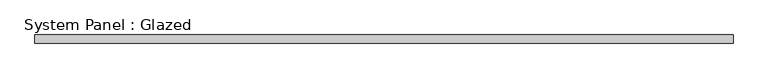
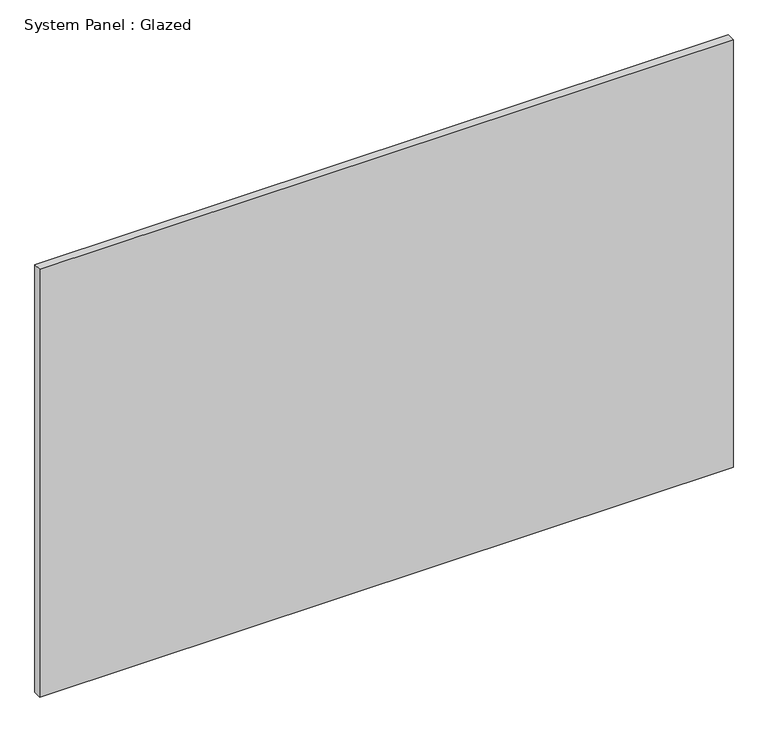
"""IFC4 building model written with IfcOpenShell, lengths in millimetres: plate geometry, System Panel : Glazed."""

import ifcopenshell
import ifcopenshell.guid

model = None  # the IFC model being written
_history = None  # IfcOwnerHistory: only IFC2X3 demands one
_inside = {}  # id of a spatial element -> (the spatial element, [elements in it])
_under = {}  # id of a project, library or spatial element -> (it, [spatial elements below it])
_declared = {}  # id of a project -> (the project, [libraries it declares])
_typed = {}  # id of a type object -> (the type object, [elements of that type])
_made_of = {}  # id of a material, layer set ... -> (it, [elements and type objects made of it])


def new_model(schema):
    """Start an empty IFC model of exactly this schema.

    Asked for "IFC4X3", IfcOpenShell would pick the latest addendum, in which some entities
    have other attributes; the version numbers below select the first issue.
    IFC2X3 requires an IfcOwnerHistory on every rooted entity: one is made here for all.
    """
    global model, _history
    if schema == "IFC4X3":
        model = ifcopenshell.file(schema_version=(4, 3, 0, 0))
    else:
        model = ifcopenshell.file(schema=schema)
    _inside.clear()
    _under.clear()
    _declared.clear()
    _typed.clear()
    _made_of.clear()
    _history = None
    if model.schema == "IFC2X3":
        org = make("IfcOrganization", Name="unknown")
        user = make(
            "IfcPersonAndOrganization",
            ThePerson=make("IfcPerson", FamilyName="unknown"),
            TheOrganization=org,
        )
        app = make(
            "IfcApplication",
            ApplicationDeveloper=org,
            Version="unknown",
            ApplicationFullName="unknown",
            ApplicationIdentifier="unknown",
        )
        _history = make(
            "IfcOwnerHistory",
            OwningUser=user,
            OwningApplication=app,
            ChangeAction="ADDED",
            CreationDate=0,
        )
    return model


def make(cls, **values):
    """One entity of the class cls with the attributes given. An attribute that is None is left unset."""
    return model.create_entity(
        cls, **{name: value for name, value in values.items() if value is not None}
    )


def rooted(cls, **values):
    """An entity with a GlobalId (a new one), such as an element, a storey or a relation."""
    return make(cls, GlobalId=ifcopenshell.guid.new(), OwnerHistory=_history, **values)


def si_unit(unit_type, name, prefix=None):
    """IfcSIUnit, for example si_unit("LENGTHUNIT", "METRE", prefix="MILLI")."""
    return make("IfcSIUnit", UnitType=unit_type, Prefix=prefix, Name=name)


def assignment(units):
    """IfcUnitAssignment: the units of a project."""
    return None if units is None else make("IfcUnitAssignment", Units=units)


def point(xyz):
    """IfcCartesianPoint."""
    return None if xyz is None else make("IfcCartesianPoint", Coordinates=xyz)


def direction(xyz):
    """IfcDirection."""
    return None if xyz is None else make("IfcDirection", DirectionRatios=xyz)


def frame(location, z_axis=None, x_axis=None):
    """IfcAxis2Placement3D, a coordinate frame: its origin and axes. An axis left out is left unset."""
    return make(
        "IfcAxis2Placement3D",
        Location=point(location),
        Axis=direction(z_axis),
        RefDirection=direction(x_axis),
    )


def origin():
    """The frame at (0, 0, 0) with its axes left unset."""
    return frame((0.0, 0.0, 0.0))


def origin_with_axes():
    """The frame at (0, 0, 0) with the z axis (0, 0, 1) and the x axis (1, 0, 0) written out."""
    return frame((0.0, 0.0, 0.0), z_axis=(0.0, 0.0, 1.0), x_axis=(1.0, 0.0, 0.0))


def place(relative_to, where):
    """IfcLocalPlacement: puts the frame where relative to a parent placement (None: the world)."""
    return make(
        "IfcLocalPlacement", PlacementRelTo=relative_to, RelativePlacement=where
    )


def context(
    kind, dimensions, precision=None, world=None, true_north=None, identifier=None
):
    """IfcGeometricRepresentationContext, for example the 3D "Model" context."""
    return make(
        "IfcGeometricRepresentationContext",
        ContextIdentifier=identifier,
        ContextType=kind,
        CoordinateSpaceDimension=dimensions,
        Precision=precision,
        WorldCoordinateSystem=world,
        TrueNorth=true_north,
    )


def project(units=None, contexts=None):
    """IfcProject with its units and contexts."""
    return rooted(
        "IfcProject",
        Name="project",
        RepresentationContexts=contexts,
        UnitsInContext=assignment(units),
    )


def spatial(cls, under=None, at=None, **own):
    """A site, building, storey or space (cls), placed at a placement, below another one or the project."""
    s = rooted(cls, ObjectPlacement=at, **own)
    if under is not None:
        _under.setdefault(under.id(), (under, []))[1].append(s)
    return s


def polyline(points):
    """IfcPolyline through the points."""
    return make("IfcPolyline", Points=[point(p) for p in points])


def outline(outer, holes=None, kind="AREA"):
    """IfcArbitraryClosedProfileDef: a profile drawn as a closed curve; with holes, ...WithVoids."""
    if holes is None:
        return make("IfcArbitraryClosedProfileDef", ProfileType=kind, OuterCurve=outer)
    return make(
        "IfcArbitraryProfileDefWithVoids",
        ProfileType=kind,
        OuterCurve=outer,
        InnerCurves=holes,
    )


def extrude(swept, where, along, depth):
    """IfcExtrudedAreaSolid: the profile swept, set in the frame where, extruded along a direction by depth."""
    return make(
        "IfcExtrudedAreaSolid",
        SweptArea=swept,
        Position=where,
        ExtrudedDirection=direction(along),
        Depth=depth,
    )


def shape(context_of_items, identifier, shape_type, items):
    """IfcShapeRepresentation: the items that make up one representation, for example the "Body"."""
    return make(
        "IfcShapeRepresentation",
        ContextOfItems=context_of_items,
        RepresentationIdentifier=identifier,
        RepresentationType=shape_type,
        Items=items,
    )


def source(mapping_origin, context_of_items, identifier, shape_type, items):
    """IfcRepresentationMap: a shape defined once, which mapped items show again and again."""
    return make(
        "IfcRepresentationMap",
        MappingOrigin=mapping_origin,
        MappedRepresentation=shape(context_of_items, identifier, shape_type, items),
    )


def transform(
    local_origin,
    x_axis=None,
    y_axis=None,
    z_axis=None,
    scale=None,
    scale2=None,
    scale3=None,
    uniform=True,
):
    """IfcCartesianTransformationOperator3D, or its non-uniform kind. x_axis, y_axis, z_axis: its Axis1, 2, 3."""
    if uniform:
        return make(
            "IfcCartesianTransformationOperator3D",
            Axis1=direction(x_axis),
            Axis2=direction(y_axis),
            LocalOrigin=point(local_origin),
            Scale=scale,
            Axis3=direction(z_axis),
        )
    return make(
        "IfcCartesianTransformationOperator3DnonUniform",
        Axis1=direction(x_axis),
        Axis2=direction(y_axis),
        LocalOrigin=point(local_origin),
        Scale=scale,
        Axis3=direction(z_axis),
        Scale2=scale2,
        Scale3=scale3,
    )


def mapped(mapping_source, mapping_target):
    """IfcMappedItem: shows the shape of a source again, moved by a transform."""
    return make(
        "IfcMappedItem", MappingSource=mapping_source, MappingTarget=mapping_target
    )


def made_of(thing, what):
    """Note that an element or type object is made of a material, layer set ...; save() writes the relation."""
    if what is not None:
        _made_of.setdefault(what.id(), (what, []))[1].append(thing)
    return thing


def element(
    cls,
    number,
    at=None,
    inside=None,
    cuts=None,
    type_object=None,
    material=None,
    context=None,
    identifier="Body",
    shape_type=None,
    held_by="IfcProductDefinitionShape",
    body=None,
    shapes=None,
    **own,
):
    """One element of the class cls, such as IfcWall. Its Tag is "e" and its number.

    at: its placement. inside: the storey or other place that contains it. cuts: it is an
    opening in that element (IfcRelVoidsElement). A single representation is given by context,
    identifier, shape_type and body (its items); several are given by shapes. held_by: the class
    of the entity that holds the representations. save() writes the other relations.
    """
    e = rooted(cls, Tag="e%d" % number, ObjectPlacement=at, **own)
    if body is not None:
        shapes = [shape(context, identifier, shape_type, body)]
    if shapes is not None:
        e.Representation = make(held_by, Representations=shapes)
    if inside is not None:
        _inside.setdefault(inside.id(), (inside, []))[1].append(e)
    if cuts is not None:
        rooted(
            "IfcRelVoidsElement", RelatingBuildingElement=cuts, RelatedOpeningElement=e
        )
    if type_object is not None:
        _typed.setdefault(type_object.id(), (type_object, []))[1].append(e)
    return made_of(e, material)


def aggregate(whole, parts):
    """IfcRelAggregates: a whole, such as a stair, and the parts it consists of."""
    return rooted("IfcRelAggregates", RelatingObject=whole, RelatedObjects=parts)


def save(model, path):
    """Write the relations noted so far, then the file.

    IfcRelAggregates (storeys below a building ...), IfcRelContainedInSpatialStructure (elements
    in a storey), IfcRelDefinesByType, IfcRelAssociatesMaterial and IfcRelDeclares: one each for
    every whole, place, type object, material and project.
    """
    for whole, parts in _under.values():
        aggregate(whole, parts)
    for where, things in _inside.values():
        rooted(
            "IfcRelContainedInSpatialStructure",
            RelatedElements=things,
            RelatingStructure=where,
        )
    for kind, things in _typed.values():
        rooted("IfcRelDefinesByType", RelatedObjects=things, RelatingType=kind)
    for what, things in _made_of.values():
        rooted("IfcRelAssociatesMaterial", RelatedObjects=things, RelatingMaterial=what)
    for by, libraries in _declared.values():
        rooted("IfcRelDeclares", RelatingContext=by, RelatedDefinitions=libraries)
    model.write(path)


def system_panel_glazed_4a57b5fe(model_context):
    return source(origin(), model_context, "Body", "SweptSolid", [
        extrude(outline(polyline([(1095.375, 19.05), (-1095.375, 19.05), (-1095.375, 44.45), (1095.375, 44.45), (1095.375, 19.05)])), origin_with_axes(), (0.0, 0.0, 1.0), 1428.75),
    ])


if __name__ == "__main__":
    model = new_model("IFC4")
    model_context = context("Model", 3, world=origin())
    ifc_project = project(units=[si_unit("LENGTHUNIT", "METRE", prefix="MILLI")], contexts=[model_context])
    site = spatial("IfcSite", under=ifc_project)
    building = spatial("IfcBuilding", under=site)
    placement = place(None, origin())
    system_panel_glazed_shape = system_panel_glazed_4a57b5fe(model_context)
    element("IfcPlate", 1, ObjectType="System Panel : Glazed", at=placement, inside=building, context=model_context, shape_type="MappedRepresentation", body=[
        mapped(system_panel_glazed_shape, transform((0.0, 0.0, 0.0), x_axis=(1.0, 0.0, 0.0), y_axis=(0.0, 1.0, 0.0), z_axis=(0.0, 0.0, 1.0))),
    ])
    save(model, "model.ifc")
